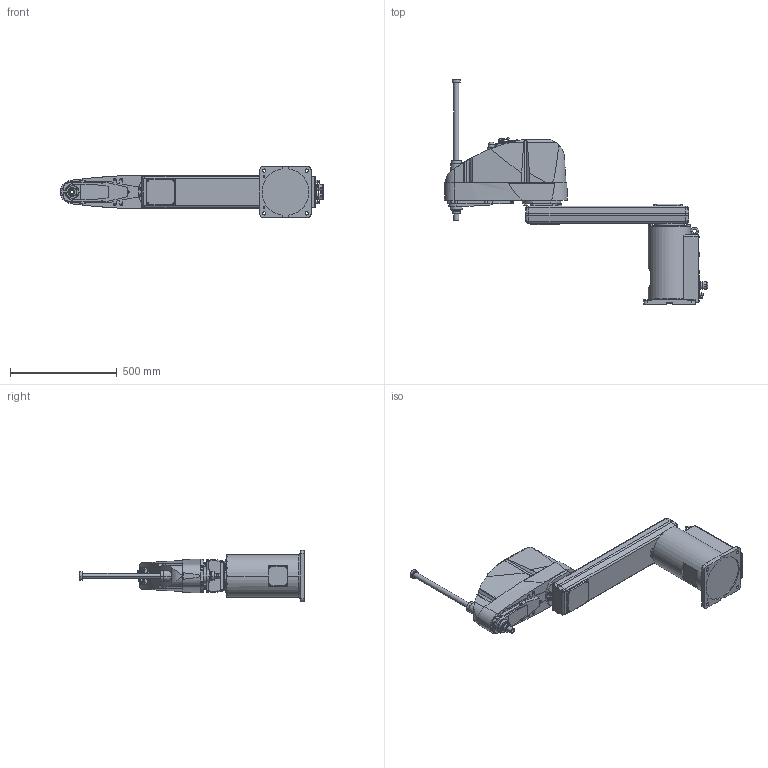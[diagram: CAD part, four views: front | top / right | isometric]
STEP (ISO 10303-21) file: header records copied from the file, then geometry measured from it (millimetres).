
FILE_DESCRIPTION( ( '' ), '1' );
FILE_NAME( '//expscmdclustefs.cadenas.external/client_exchange/iodir/jobs/output/wkb51398744_no0/STEP/G20_A04S_2_03.stp', '2012-11-20T13:04:12', ( '' ), ( '' ), ' ', ' ', ' ' );
FILE_SCHEMA( ( 'CONFIG_CONTROL_DESIGN' ) );
Length unit declared in the file: millimetre
Products named in the file (4): 1; 2; 3; 4
Bounding box: 1234.5 x 1053.5 x 240 mm (x, y, z)
Volume: 42399451.7 mm3; surface area: 1471848.2 mm2
Topology: 4 solids, 5 shells, 1783 faces, 4332 edges, 2812 vertices
Faces by surface type: plane 994, cylinder 573, cone 180, torus 35, sphere 1
Entity records: 53754 total; most frequent: CARTESIAN_POINT 10590, DIRECTION 9216, ORIENTED_EDGE 8648, EDGE_CURVE 4324, AXIS2_PLACEMENT_3D 3228, VERTEX_POINT 2812, LINE 2760, VECTOR 2760
